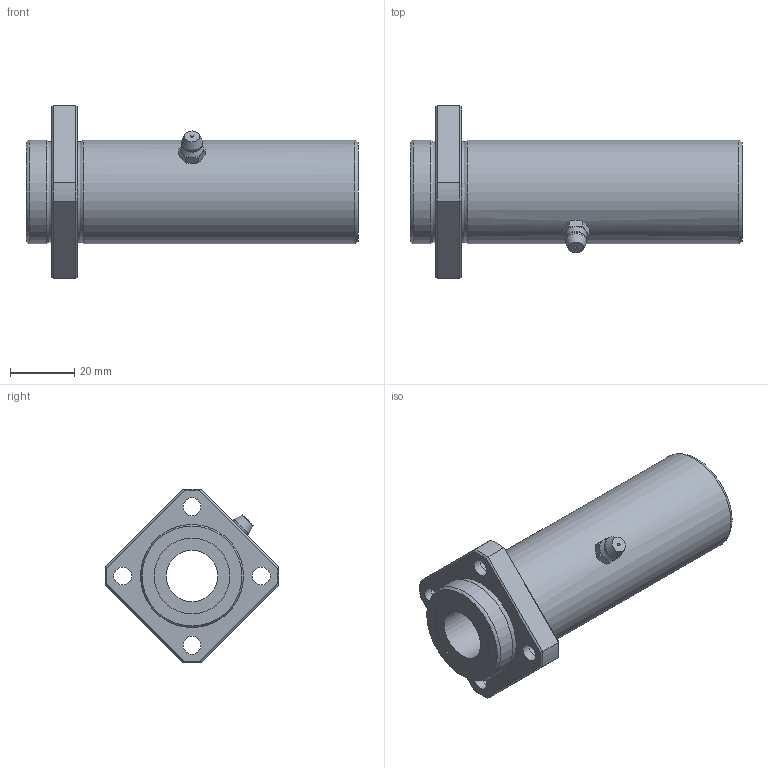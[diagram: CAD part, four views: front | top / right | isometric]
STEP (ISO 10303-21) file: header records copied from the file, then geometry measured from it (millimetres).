
FILE_DESCRIPTION((''),'2;1');
FILE_NAME('D:\製品 (図面)\カタログ用3D\リニアベアリング関連\STEP形式\LFLKB\LFLKB16.stp','2010-06-04T09:11:24',('Tsuchiya'),(''),'Autodesk Inventor 10','Autodesk Inventor 10','');
FILE_SCHEMA(('AUTOMOTIVE_DESIGN { 1 0 10303 214 1 1 1 1 }'));
Length unit declared in the file: millimetre
Products named in the file (1): LFLKB16
Bounding box: 103 x 53.97 x 53.97 mm (x, y, z)
Volume: 68004.1 mm3; surface area: 19744.7 mm2
Topology: 1 solids, 1 shells, 80 faces, 166 edges, 98 vertices
Faces by surface type: plane 28, cone 21, bspline 16, cylinder 11, sphere 2, torus 2
Full cylindrical faces by diameter (mm): 16 x1, 23.5 x2, 32 x2
Entity records: 2413 total; most frequent: CARTESIAN_POINT 879, DIRECTION 300, ORIENTED_EDGE 288, EDGE_CURVE 144, AXIS2_PLACEMENT_3D 133, EDGE_LOOP 122, VERTEX_POINT 96, FACE_OUTER_BOUND 80
